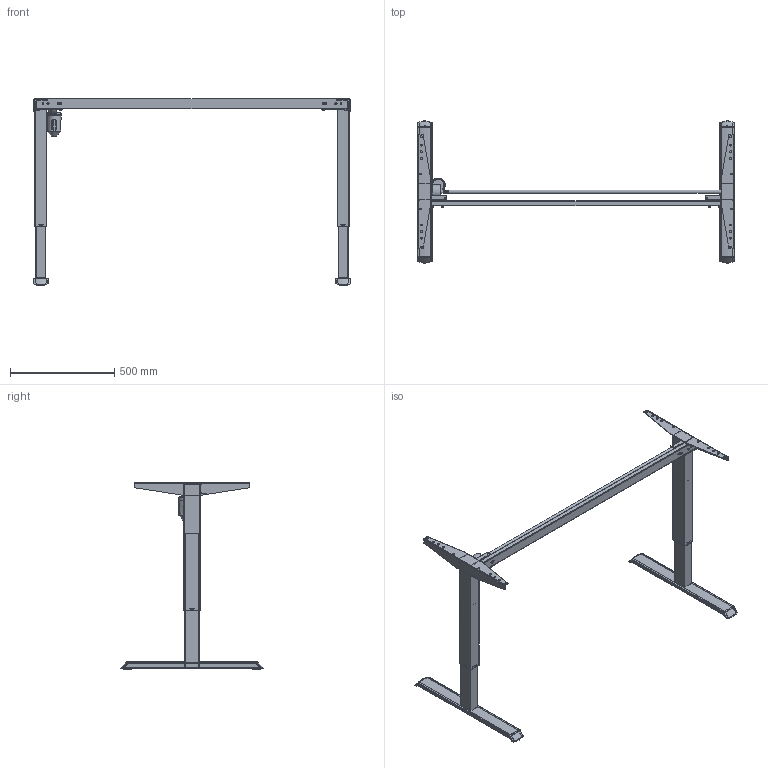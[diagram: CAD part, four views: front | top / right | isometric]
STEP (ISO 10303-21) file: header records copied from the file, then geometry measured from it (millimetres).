
FILE_DESCRIPTION (( 'STEP AP203' ), '1' );
FILE_NAME ('Tech-draw_501-33_XX152.STEP', '2019-09-25T10:16:21', ( '' ), ( '' ), 'SwSTEP 2.0', 'SolidWorks 2018', '' );
FILE_SCHEMA (( 'CONFIG_CONTROL_DESIGN' ));
Length unit declared in the file: millimetre
Products named in the file (27): 340540_shell view; 140910_silver; 352600; 340560; 345600; 324520_silver; 340760; 144260_152; 348720_shell view; 149070_501-33 XS152; Tech-draw_501-33_XX152; 140860_silver1; 344820_shell view; 140920_silver; 345620_shell view; 344430_silver; 341220; 341800_silver; 347910_152; 351320; 140930_silver; 345610_shell view; 140850_silver1; 140950_silver1; 347920_152; 345630_shell view; 332570
Assembly tree (44 placements, depth 6):
  Tech-draw_501-33_XX152
    149070_501-33 XS152
      347910_152
      144260_152
        347920_152
        340560
        341220
      140920_silver
        140860_silver1
          345610_shell view
          344820_shell view
          348720_shell view
        140930_silver
          140950_silver1
            345620_shell view
            345630_shell view
            351320
        324520_silver  x2
        341800_silver  x4
        344430_silver
        352600
      140910_silver
        140850_silver1
          345600
          344820_shell view
          340540_shell view
        140930_silver
          140950_silver1
            345620_shell view
            345630_shell view
            351320
        324520_silver  x2
        341800_silver  x4
      340760  x4
      332570  x4
Bounding box: 1526 x 683.9 x 898.46 mm (x, y, z)
Volume: 2453385.5 mm3; surface area: 2642400.9 mm2
Topology: 38 solids, 38 shells, 2758 faces, 7051 edges, 4399 vertices
Faces by surface type: plane 1435, cylinder 935, bspline 256, cone 69, torus 63
Full cylindrical faces by diameter (mm): 2.8 x4, 3 x2, 4.6 x4, 5 x4, 6 x10, 7 x8, 7.4 x4, 7.6 x4, 8 x12, 10 x8, 11.9 x2, 12 x1, 13 x2, 15 x4, 16 x2, 18 x1, 20 x2, 24 x1, 37.6 x8, 60 x1
Entity records: 72523 total; most frequent: CARTESIAN_POINT 31924, ORIENTED_EDGE 8058, DIRECTION 7389, EDGE_CURVE 4029, AXIS2_PLACEMENT_3D 2717, VERTEX_POINT 2607, VECTOR 1955, LINE 1955
